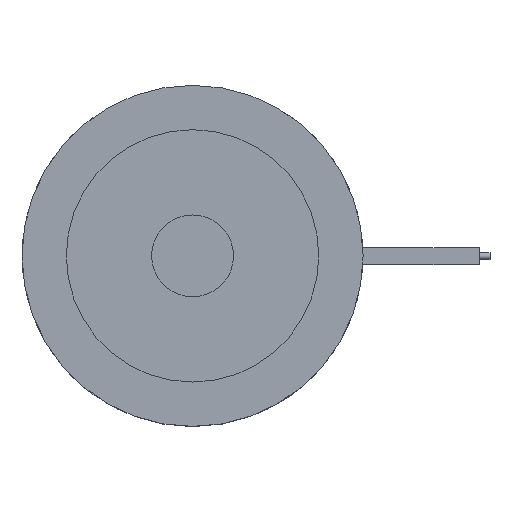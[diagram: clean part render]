
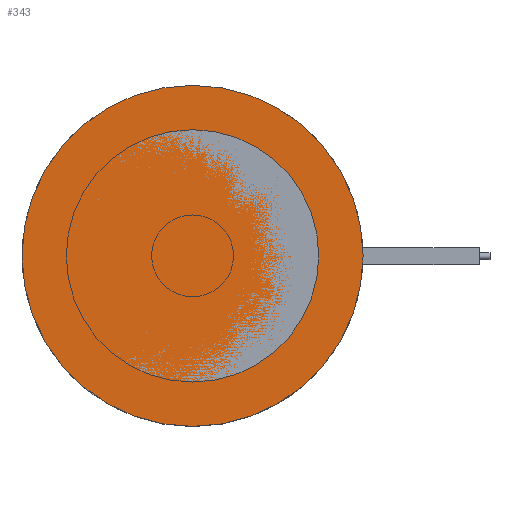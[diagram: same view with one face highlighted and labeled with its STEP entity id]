
A CAD part, top view. The second image highlights one B-rep face of the part: STEP entity #343.
In plain terms, the highlighted planar face has unit normal (0, 0, 1).
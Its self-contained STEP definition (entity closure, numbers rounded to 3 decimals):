
#252=CIRCLE('',#1217,25.);
#343=ADVANCED_FACE('',(#448),#411,.F.);
#411=PLANE('',#1218);
#448=FACE_OUTER_BOUND('',#537,.T.);
#537=EDGE_LOOP('',(#683));
#683=ORIENTED_EDGE('',*,*,#999,.F.);
#896=VERTEX_POINT('',#1786);
#999=EDGE_CURVE('',#896,#896,#252,.T.);
#1217=AXIS2_PLACEMENT_3D('',#1785,#1435,#1436);
#1218=AXIS2_PLACEMENT_3D('',#1787,#1437,#1438);
#1435=DIRECTION('',(0.,0.,-1.));
#1436=DIRECTION('',(-1.,0.,0.));
#1437=DIRECTION('',(0.,0.,-1.));
#1438=DIRECTION('',(-1.,0.,0.));
#1785=CARTESIAN_POINT('',(0.,0.,0.));
#1786=CARTESIAN_POINT('',(-25.,0.,0.));
#1787=CARTESIAN_POINT('',(0.,0.,0.));
